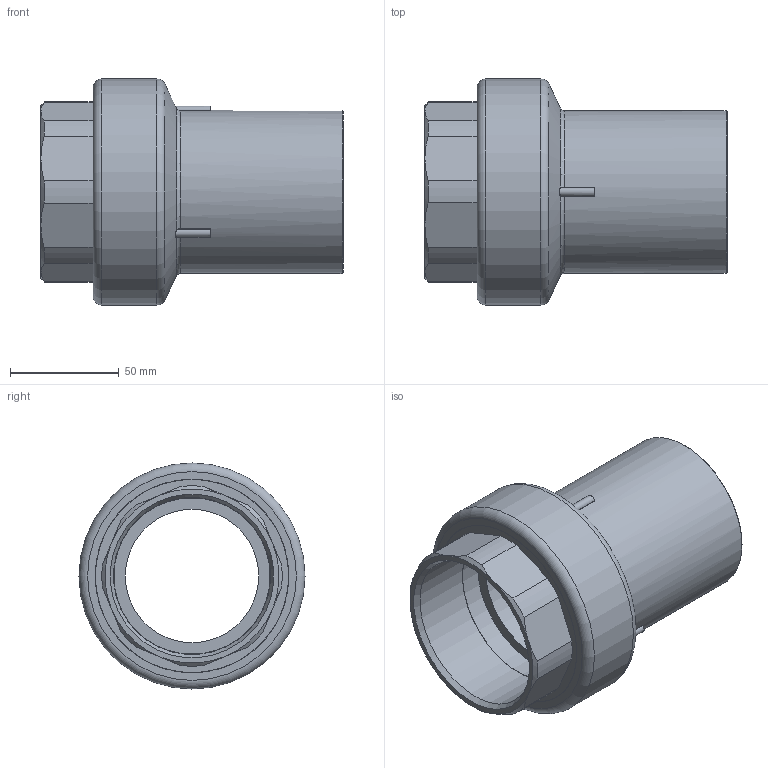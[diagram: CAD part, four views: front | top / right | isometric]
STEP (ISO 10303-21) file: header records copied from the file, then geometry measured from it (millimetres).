
FILE_DESCRIPTION(/* description */ ('Unknown'),/* implementation_level */ '2;1');
FILE_NAME(/* name */ 'RTOFP075C',/* time_stamp */ '2021-03-01T16:51:12+01:00',/* author */ ('Unknown'),/* organization */ ('Unknown'),/* preprocessor_version */ 'ST-DEVELOPER v16.7',/* originating_system */ 'Solid Edge',/* authorisation */ 'Unknown');
FILE_SCHEMA (('AUTOMOTIVE_DESIGN {1 0 10303 214 3 1 1}'));
Length unit declared in the file: millimetre
Products named in the file (3): RTOFP075C; Parte PE 075; IOF075C
Assembly tree (2 placements, depth 2):
  RTOFP075C
    Parte PE 075
    IOF075C
Bounding box: 139 x 104 x 104 mm (x, y, z)
Volume: 318435.4 mm3; surface area: 107453.6 mm2
Topology: 2 solids, 2 shells, 171 faces, 417 edges, 266 vertices
Faces by surface type: plane 95, cylinder 39, bspline 15, torus 11, cone 11
Full cylindrical faces by diameter (mm): 61.4 x1, 67 x2, 72 x2, 72.226 x1, 75 x1, 83 x4, 83.4 x2, 89 x8, 104 x1
Entity records: 5681 total; most frequent: CARTESIAN_POINT 1194, DIRECTION 828, ORIENTED_EDGE 766, EDGE_CURVE 383, AXIS2_PLACEMENT_3D 332, VERTEX_POINT 259, EDGE_LOOP 218, FACE_BOUND 218
